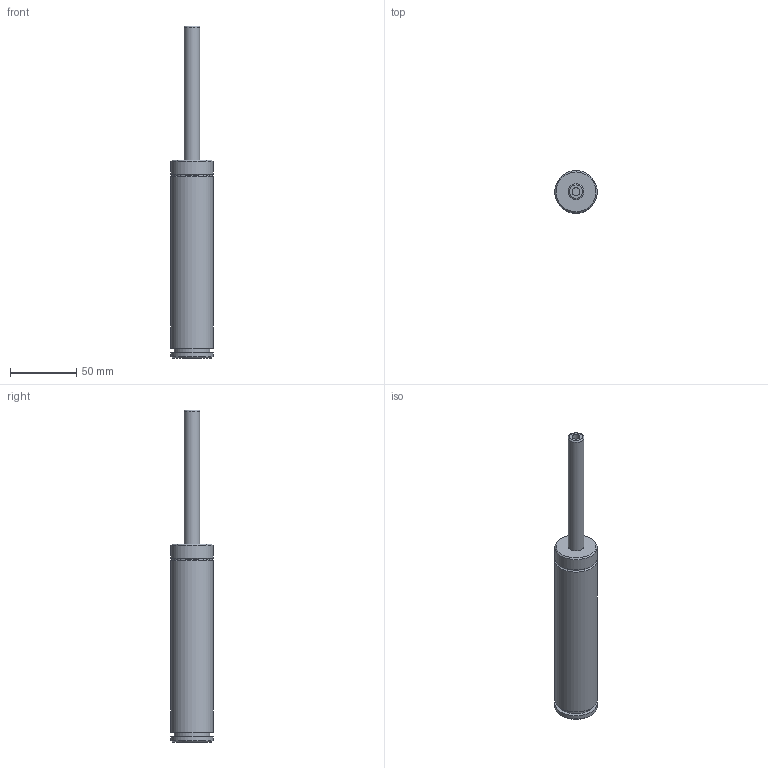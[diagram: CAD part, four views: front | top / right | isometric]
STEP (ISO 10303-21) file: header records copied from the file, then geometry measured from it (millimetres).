
FILE_DESCRIPTION(('FreeCAD Model'),'2;1');
FILE_NAME('Open CASCADE Shape Model','2024-11-14T10:17:57',('Author'),( ''),'Open CASCADE STEP processor 7.6','FreeCAD','Unknown');
FILE_SCHEMA(('AUTOMOTIVE_DESIGN { 1 0 10303 214 1 1 1 1 }'));
Length unit declared in the file: millimetre
Products named in the file (5): Unnamed; Part003; Cut; Part009; Cut003
Assembly tree (4 placements, depth 3):
  Unnamed
    Part003
      Cut
    Part009
      Cut003
Bounding box: 32 x 32 x 250 mm (x, y, z)
Volume: 129152.9 mm3; surface area: 21683 mm2
Topology: 2 solids, 2 shells, 24 faces, 36 edges, 22 vertices
Faces by surface type: plane 10, cylinder 9, torus 3, cone 2
Full cylindrical faces by diameter (mm): 6 x4, 12 x1, 27 x1, 32 x3
Entity records: 639 total; most frequent: DIRECTION 119, CARTESIAN_POINT 87, ORIENTED_EDGE 72, AXIS2_PLACEMENT_3D 54, EDGE_CURVE 36, FACE_BOUND 30, EDGE_LOOP 30, CIRCLE 25
